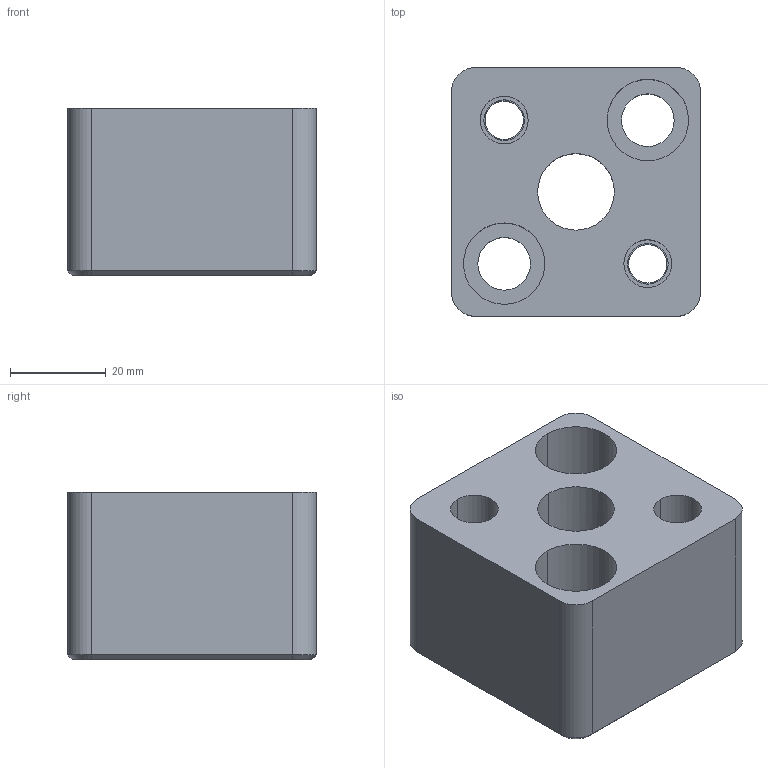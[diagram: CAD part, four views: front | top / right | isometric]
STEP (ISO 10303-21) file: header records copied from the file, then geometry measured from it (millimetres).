
FILE_DESCRIPTION(/* description */ (''),/* implementation_level */ '2;1');
FILE_NAME(/* name */ '3d_hsa-fn16_04183_r00.stp',/* time_stamp */ '2011-01-10T14:14:36+09:00',/* author */ ('MISUMI'),/* organization */ (''),/* preprocessor_version */ 'ST-DEVELOPER v11',/* originating_system */ 'UGS - NX 5.0',/* authorisation */ '');
FILE_SCHEMA (('CONFIG_CONTROL_DESIGN'));
Length unit declared in the file: millimetre
Products named in the file (1): 3d_hsa-fn16_04183_r00
Bounding box: 52 x 52 x 35 mm (x, y, z)
Volume: 69657.5 mm3; surface area: 18200.7 mm2
Topology: 1 solids, 1 shells, 55 faces, 132 edges, 85 vertices
Faces by surface type: cylinder 29, plane 20, cone 6
Entity records: 1733 total; most frequent: DIRECTION 303, CARTESIAN_POINT 293, ORIENTED_EDGE 264, EDGE_CURVE 132, AXIS2_PLACEMENT_3D 121, VERTEX_POINT 85, EDGE_LOOP 71, CIRCLE 65
